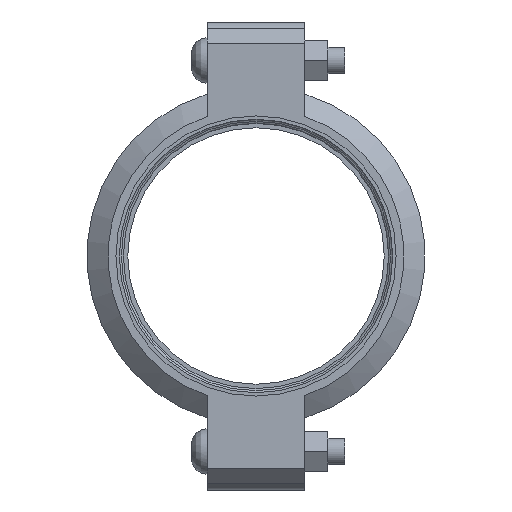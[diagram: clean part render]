
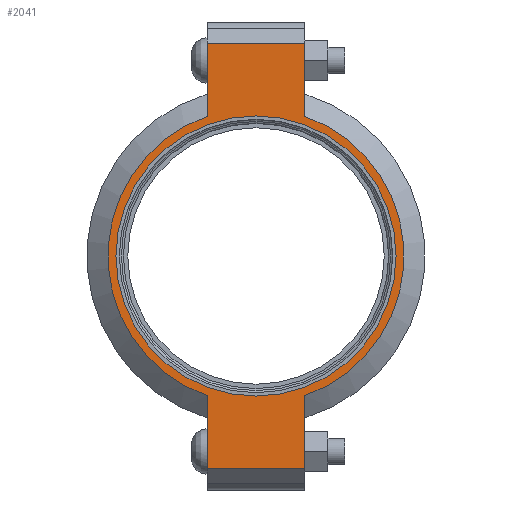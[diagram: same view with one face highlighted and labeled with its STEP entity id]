
A CAD part, left-side view. The second image highlights one B-rep face of the part: STEP entity #2041.
In plain terms, the highlighted planar face has unit normal (-1, 0, 0) as drawn and (0, 0, 1) by its records, which use the part's own axes.
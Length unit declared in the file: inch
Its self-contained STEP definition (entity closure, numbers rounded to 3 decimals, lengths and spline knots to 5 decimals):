
#174=LINE('',#3640,#273);
#182=LINE('',#3676,#281);
#189=LINE('',#3697,#288);
#198=LINE('',#3729,#297);
#199=LINE('',#3733,#298);
#200=LINE('',#3735,#299);
#273=VECTOR('',#2982,0.3937);
#281=VECTOR('',#2998,0.3937);
#288=VECTOR('',#3017,0.3937);
#297=VECTOR('',#3042,0.3937);
#298=VECTOR('',#3047,0.3937);
#299=VECTOR('',#3048,0.3937);
#359=FACE_BOUND('',#629,.T.);
#405=PLANE('',#2406);
#501=FACE_OUTER_BOUND('',#628,.T.);
#628=EDGE_LOOP('',(#1770,#1771,#1772,#1773,#1774,#1775,#1776,#1777));
#629=EDGE_LOOP('',(#1778));
#776=CIRCLE('',#2348,3.3125);
#802=CIRCLE('',#2407,3.5);
#803=CIRCLE('',#2408,3.5);
#927=VERTEX_POINT('',#3456);
#970=VERTEX_POINT('',#3637);
#971=VERTEX_POINT('',#3639);
#982=VERTEX_POINT('',#3671);
#983=VERTEX_POINT('',#3675);
#990=VERTEX_POINT('',#3694);
#991=VERTEX_POINT('',#3696);
#1001=VERTEX_POINT('',#3732);
#1002=VERTEX_POINT('',#3734);
#1164=EDGE_CURVE('',#927,#927,#776,.T.);
#1225=EDGE_CURVE('',#971,#970,#174,.T.);
#1239=EDGE_CURVE('',#983,#982,#182,.T.);
#1249=EDGE_CURVE('',#991,#990,#189,.T.);
#1264=EDGE_CURVE('',#983,#970,#198,.T.);
#1265=EDGE_CURVE('',#982,#991,#802,.T.);
#1266=EDGE_CURVE('',#1001,#990,#199,.T.);
#1267=EDGE_CURVE('',#1001,#1002,#200,.T.);
#1268=EDGE_CURVE('',#1002,#971,#803,.T.);
#1770=ORIENTED_EDGE('',*,*,#1264,.F.);
#1771=ORIENTED_EDGE('',*,*,#1239,.T.);
#1772=ORIENTED_EDGE('',*,*,#1265,.T.);
#1773=ORIENTED_EDGE('',*,*,#1249,.T.);
#1774=ORIENTED_EDGE('',*,*,#1266,.F.);
#1775=ORIENTED_EDGE('',*,*,#1267,.T.);
#1776=ORIENTED_EDGE('',*,*,#1268,.T.);
#1777=ORIENTED_EDGE('',*,*,#1225,.T.);
#1778=ORIENTED_EDGE('',*,*,#1164,.T.);
#2041=ADVANCED_FACE('',(#501,#359),#405,.T.);
#2348=AXIS2_PLACEMENT_3D('',#3458,#2858,#2859);
#2406=AXIS2_PLACEMENT_3D('',#3730,#3043,#3044);
#2407=AXIS2_PLACEMENT_3D('',#3731,#3045,#3046);
#2408=AXIS2_PLACEMENT_3D('',#3736,#3049,#3050);
#2858=DIRECTION('center_axis',(0.,0.,-1.));
#2859=DIRECTION('ref_axis',(1.,0.,0.));
#2982=DIRECTION('',(1.,0.,0.));
#2998=DIRECTION('',(-1.,0.,0.));
#3017=DIRECTION('',(-1.,0.,0.));
#3042=DIRECTION('',(0.,-1.,0.));
#3043=DIRECTION('center_axis',(0.,0.,1.));
#3044=DIRECTION('ref_axis',(-1.,0.,0.));
#3045=DIRECTION('center_axis',(0.,0.,1.));
#3046=DIRECTION('ref_axis',(1.,0.,0.));
#3047=DIRECTION('',(0.,1.,0.));
#3048=DIRECTION('',(1.,0.,0.));
#3049=DIRECTION('center_axis',(0.,0.,1.));
#3050=DIRECTION('ref_axis',(1.,0.,0.));
#3456=CARTESIAN_POINT('',(-3.3125,0.,1.065));
#3458=CARTESIAN_POINT('Origin',(0.,0.,1.065));
#3637=CARTESIAN_POINT('',(5.035,-1.156,1.065));
#3639=CARTESIAN_POINT('',(3.30358,-1.156,1.065));
#3640=CARTESIAN_POINT('',(5.535,-1.156,1.065));
#3671=CARTESIAN_POINT('',(3.30358,1.156,1.065));
#3675=CARTESIAN_POINT('',(5.035,1.156,1.065));
#3676=CARTESIAN_POINT('',(-5.535,1.156,1.065));
#3694=CARTESIAN_POINT('',(-5.035,1.156,1.065));
#3696=CARTESIAN_POINT('',(-3.30358,1.156,1.065));
#3697=CARTESIAN_POINT('',(-5.535,1.156,1.065));
#3729=CARTESIAN_POINT('',(5.035,-0.578,1.065));
#3730=CARTESIAN_POINT('Origin',(0.,0.,
1.065));
#3731=CARTESIAN_POINT('Origin',(0.,0.,1.065));
#3732=CARTESIAN_POINT('',(-5.035,-1.156,1.065));
#3733=CARTESIAN_POINT('',(-5.035,0.578,1.065));
#3734=CARTESIAN_POINT('',(-3.30358,-1.156,1.065));
#3735=CARTESIAN_POINT('',(5.535,-1.156,1.065));
#3736=CARTESIAN_POINT('Origin',(0.,0.,1.065));
